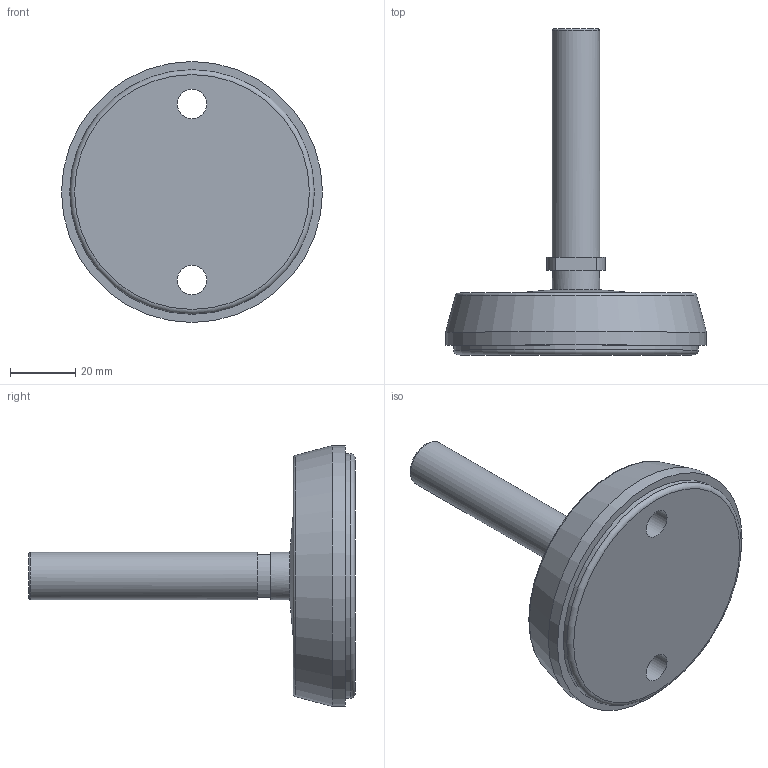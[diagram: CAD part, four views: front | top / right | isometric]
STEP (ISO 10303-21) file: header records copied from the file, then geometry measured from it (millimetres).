
FILE_DESCRIPTION (( 'STEP AP214' ), '1' );
FILE_NAME ('F21813.step', '2024-12-03T16:15:51', ( '' ), ( '' ), 'SwSTEP 2.0', 'SolidWorks 2023', '' );
FILE_SCHEMA (( 'AUTOMOTIVE_DESIGN' ));
Length unit declared in the file: millimetre
Products named in the file (1): F21813
Bounding box: 80 x 100 x 80 mm (x, y, z)
Volume: 100359.8 mm3; surface area: 18391.8 mm2
Topology: 1 solids, 1 shells, 27 faces, 57 edges, 34 vertices
Faces by surface type: plane 14, cylinder 8, torus 3, cone 2
Full cylindrical faces by diameter (mm): 9 x2, 14.5 x2, 75 x1, 80 x1
Entity records: 671 total; most frequent: DIRECTION 126, CARTESIAN_POINT 102, ORIENTED_EDGE 86, AXIS2_PLACEMENT_3D 55, EDGE_LOOP 44, EDGE_CURVE 43, FACE_OUTER_BOUND 36, VERTEX_POINT 31
